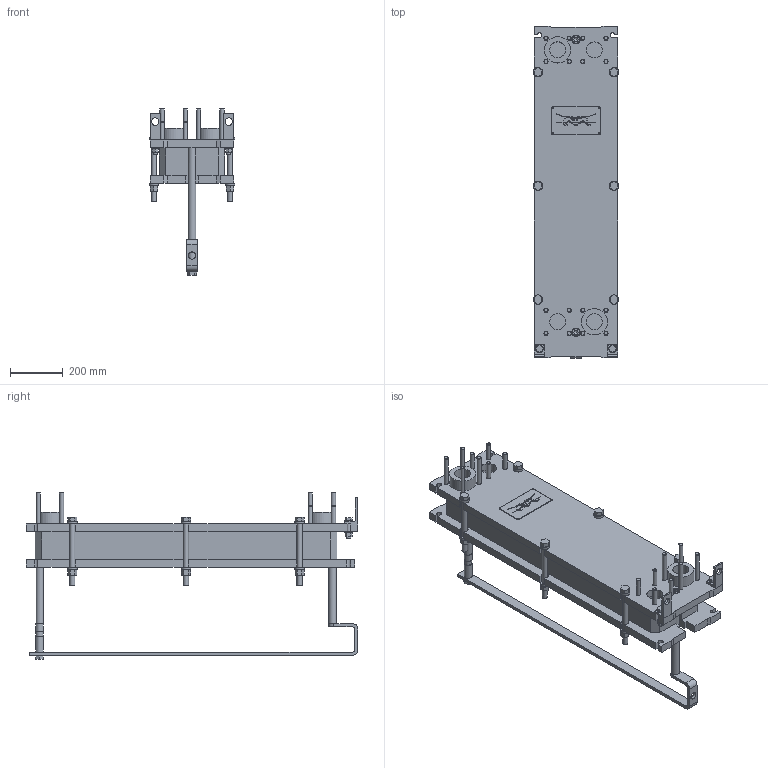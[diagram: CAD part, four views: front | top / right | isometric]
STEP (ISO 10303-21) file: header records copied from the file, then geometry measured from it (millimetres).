
FILE_DESCRIPTION(/* description */ (''),/* implementation_level */ '2;1');
FILE_NAME(/* name */ 'C:\temp\TL6_FG_LC350_08_Rev0.stp',/* time_stamp */ '2016-02-02T13:36:12+08:00',/* author */ ('SELUJJNCX'),/* organization */ (''),/* preprocessor_version */ 'ST-DEVELOPER v15.6',/* originating_system */ 'Autodesk Inventor 2015',/* authorisation */ '270013742 mm^3');
FILE_SCHEMA (('AUTOMOTIVE_DESIGN { 1 0 10303 214 3 1 1 }'));
Length unit declared in the file: millimetre
Products named in the file (1): 3dmodel_TL6.1
Bounding box: 326 x 1264 x 634.5 mm (x, y, z)
Volume: 54751211.7 mm3; surface area: 2139286.4 mm2
Topology: 1 solids, 3 shells, 857 faces, 2274 edges, 1495 vertices
Faces by surface type: plane 589, cylinder 236, cone 27, torus 5
Full cylindrical faces by diameter (mm): 4.049 x4, 16 x20, 18 x2, 20 x12, 22 x2, 28 x4, 30 x10, 32 x2, 36 x12, 37 x1, 61 x10, 100 x2
Entity records: 25804 total; most frequent: CARTESIAN_POINT 4474, DIRECTION 4355, ORIENTED_EDGE 4258, EDGE_CURVE 2129, LINE 1595, VECTOR 1595, VERTEX_POINT 1463, AXIS2_PLACEMENT_3D 1380
